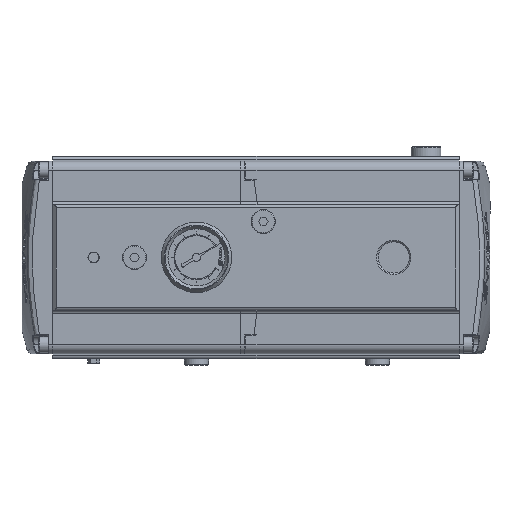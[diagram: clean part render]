
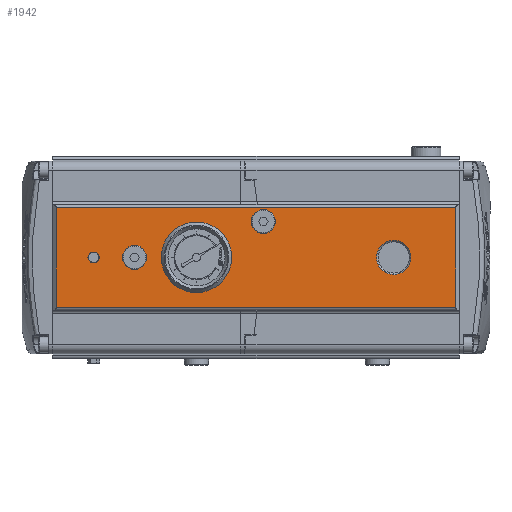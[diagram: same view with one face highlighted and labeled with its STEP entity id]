
A CAD part, top view. The second image highlights one B-rep face of the part: STEP entity #1942.
In plain terms, the highlighted planar face has unit normal (0, 0, 1).
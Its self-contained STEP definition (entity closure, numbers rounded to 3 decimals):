
#1942 = ADVANCED_FACE( '', ( #5217, #5218, #5219, #5220, #5221, #5222 ), #5223, .T. );
#5217 = FACE_BOUND( '', #10315, .T. );
#5218 = FACE_BOUND( '', #10316, .T. );
#5219 = FACE_BOUND( '', #10317, .T. );
#5220 = FACE_BOUND( '', #10318, .T. );
#5221 = FACE_BOUND( '', #10319, .T. );
#5222 = FACE_OUTER_BOUND( '', #10320, .T. );
#5223 = PLANE( '', #10321 );
#10315 = EDGE_LOOP( '', ( #18098 ) );
#10316 = EDGE_LOOP( '', ( #18099 ) );
#10317 = EDGE_LOOP( '', ( #18100 ) );
#10318 = EDGE_LOOP( '', ( #18101 ) );
#10319 = EDGE_LOOP( '', ( #18102 ) );
#10320 = EDGE_LOOP( '', ( #18103, #18104, #18105, #18106 ) );
#10321 = AXIS2_PLACEMENT_3D( '', #18107, #18108, #18109 );
#18098 = ORIENTED_EDGE( '', *, *, #31292, .T. );
#18099 = ORIENTED_EDGE( '', *, *, #31293, .T. );
#18100 = ORIENTED_EDGE( '', *, *, #31294, .T. );
#18101 = ORIENTED_EDGE( '', *, *, #31295, .T. );
#18102 = ORIENTED_EDGE( '', *, *, #31296, .T. );
#18103 = ORIENTED_EDGE( '', *, *, #31297, .F. );
#18104 = ORIENTED_EDGE( '', *, *, #31298, .T. );
#18105 = ORIENTED_EDGE( '', *, *, #31299, .T. );
#18106 = ORIENTED_EDGE( '', *, *, #31300, .T. );
#18107 = CARTESIAN_POINT( '', ( 124.5, -30.5, 65. ) );
#18108 = DIRECTION( '', ( 0., 0., 1. ) );
#18109 = DIRECTION( '', ( 0., -1., 0. ) );
#31292 = EDGE_CURVE( '', #37175, #37175, #37176, .F. );
#31293 = EDGE_CURVE( '', #37177, #37177, #37178, .F. );
#31294 = EDGE_CURVE( '', #37179, #37179, #37180, .F. );
#31295 = EDGE_CURVE( '', #37181, #37181, #37182, .F. );
#31296 = EDGE_CURVE( '', #37183, #37183, #37184, .F. );
#31297 = EDGE_CURVE( '', #37185, #37186, #37187, .T. );
#31298 = EDGE_CURVE( '', #37185, #37188, #37189, .T. );
#31299 = EDGE_CURVE( '', #37188, #37190, #37191, .T. );
#31300 = EDGE_CURVE( '', #37190, #37186, #37192, .T. );
#37175 = VERTEX_POINT( '', #45963 );
#37176 = CIRCLE( '', #45964, 10.5 );
#37177 = VERTEX_POINT( '', #45965 );
#37178 = CIRCLE( '', #45966, 2.5 );
#37179 = VERTEX_POINT( '', #45967 );
#37180 = CIRCLE( '', #45968, 4.9 );
#37181 = VERTEX_POINT( '', #45969 );
#37182 = CIRCLE( '', #45970, 4.9 );
#37183 = VERTEX_POINT( '', #45971 );
#37184 = CIRCLE( '', #45972, 4.9 );
#37185 = VERTEX_POINT( '', #45973 );
#37186 = VERTEX_POINT( '', #45974 );
#37187 = LINE( '', #45975, #45976 );
#37188 = VERTEX_POINT( '', #45977 );
#37189 = LINE( '', #45978, #45979 );
#37190 = VERTEX_POINT( '', #45980 );
#37191 = LINE( '', #45981, #45982 );
#37192 = LINE( '', #45983, #45984 );
#45963 = CARTESIAN_POINT( '', ( 84.5, -10.5, 65. ) );
#45964 = AXIS2_PLACEMENT_3D( '', #58840, #58841, #58842 );
#45965 = CARTESIAN_POINT( '', ( -99.5, -2.5, 65. ) );
#45966 = AXIS2_PLACEMENT_3D( '', #58843, #58844, #58845 );
#45967 = CARTESIAN_POINT( '', ( 4.5, 17.1, 65. ) );
#45968 = AXIS2_PLACEMENT_3D( '', #58846, #58847, #58848 );
#45969 = CARTESIAN_POINT( '', ( -74.5, -4.9, 65. ) );
#45970 = AXIS2_PLACEMENT_3D( '', #58849, #58850, #58851 );
#45971 = CARTESIAN_POINT( '', ( -36.5, -4.9, 65. ) );
#45972 = AXIS2_PLACEMENT_3D( '', #58852, #58853, #58854 );
#45973 = CARTESIAN_POINT( '', ( 122.5, -30.5, 65. ) );
#45974 = CARTESIAN_POINT( '', ( -122.5, -30.5, 65. ) );
#45975 = CARTESIAN_POINT( '', ( 124.5, -30.5, 65. ) );
#45976 = VECTOR( '', #58855, 1000. );
#45977 = CARTESIAN_POINT( '', ( 122.5, 30.5, 65. ) );
#45978 = CARTESIAN_POINT( '', ( 122.5, 30.5, 65. ) );
#45979 = VECTOR( '', #58856, 1000. );
#45980 = CARTESIAN_POINT( '', ( -122.5, 30.5, 65. ) );
#45981 = CARTESIAN_POINT( '', ( 124.5, 30.5, 65. ) );
#45982 = VECTOR( '', #58857, 1000. );
#45983 = CARTESIAN_POINT( '', ( -122.5, -30.5, 65. ) );
#45984 = VECTOR( '', #58858, 1000. );
#58840 = CARTESIAN_POINT( '', ( 84.5, 0., 65. ) );
#58841 = DIRECTION( '', ( 0., 0., 1. ) );
#58842 = DIRECTION( '', ( 0., -1., 0. ) );
#58843 = CARTESIAN_POINT( '', ( -99.5, 0., 65. ) );
#58844 = DIRECTION( '', ( 0., 0., 1. ) );
#58845 = DIRECTION( '', ( 0., -1., 0. ) );
#58846 = CARTESIAN_POINT( '', ( 4.5, 22., 65. ) );
#58847 = DIRECTION( '', ( 0., 0., 1. ) );
#58848 = DIRECTION( '', ( 0., -1., 0. ) );
#58849 = CARTESIAN_POINT( '', ( -74.5, 0., 65. ) );
#58850 = DIRECTION( '', ( 0., 0., 1. ) );
#58851 = DIRECTION( '', ( 0., -1., 0. ) );
#58852 = CARTESIAN_POINT( '', ( -36.5, 0., 65. ) );
#58853 = DIRECTION( '', ( 0., 0., 1. ) );
#58854 = DIRECTION( '', ( 0., -1., 0. ) );
#58855 = DIRECTION( '', ( -1., 0., 0. ) );
#58856 = DIRECTION( '', ( 0., 1., 0. ) );
#58857 = DIRECTION( '', ( -1., 0., 0. ) );
#58858 = DIRECTION( '', ( 0., -1., 0. ) );
